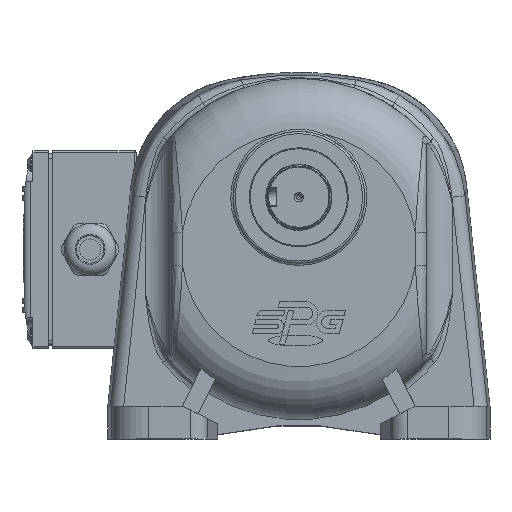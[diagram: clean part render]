
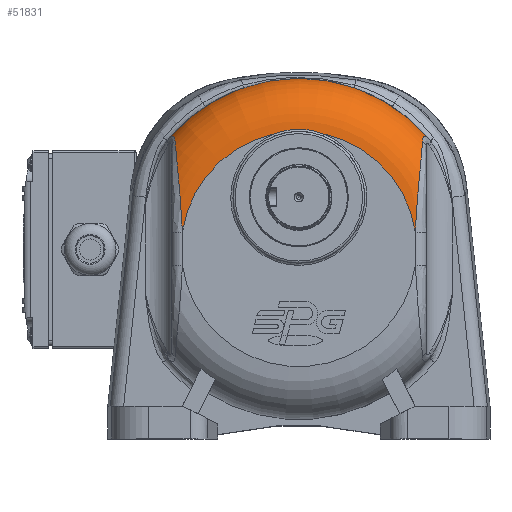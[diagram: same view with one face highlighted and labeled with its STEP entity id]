
A CAD part, top view. The second image highlights one B-rep face of the part: STEP entity #51831.
In plain terms, the highlighted toroidal (fillet/blend) face has major radius 53.545 mm and minor radius 24 mm.
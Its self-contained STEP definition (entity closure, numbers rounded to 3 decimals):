
#264=TOROIDAL_SURFACE('',#55422,53.545,24.);
#579=B_SPLINE_CURVE_WITH_KNOTS('',3,(#79896,#79897,#79898,#79899,#79900),
 .UNSPECIFIED.,.F.,.F.,(4,1,4),(-3.142,-0.449,3.142),
 .UNSPECIFIED.);
#593=B_SPLINE_CURVE_WITH_KNOTS('',3,(#80525,#80526,#80527,#80528,#80529,
#80530,#80531),.UNSPECIFIED.,.F.,.F.,(4,1,1,1,4),(-0.961,-0.686,
-0.412,-0.275,0.),.UNSPECIFIED.);
#595=B_SPLINE_CURVE_WITH_KNOTS('',3,(#80653,#80654,#80655,#80656,#80657,
#80658,#80659,#80660,#80661),.UNSPECIFIED.,.F.,.F.,(4,1,1,1,1,1,4),(-4.098,
-2.927,-2.342,-1.756,-1.171,
-0.585,0.),.UNSPECIFIED.);
#604=B_SPLINE_CURVE_WITH_KNOTS('',3,(#80916,#80917,#80918,#80919,#80920,
#80921,#80922,#80923,#80924),.UNSPECIFIED.,.F.,.F.,(4,1,1,1,1,1,4),(-9.723,
-9.138,-8.553,-7.967,-7.382,
-6.796,-5.626),.UNSPECIFIED.);
#606=B_SPLINE_CURVE_WITH_KNOTS('',3,(#81020,#81021,#81022,#81023,#81024,
#81025,#81026),.UNSPECIFIED.,.F.,.F.,(4,1,1,1,4),(-0.961,-0.686,
-0.412,-0.275,0.),.UNSPECIFIED.);
#5480=FACE_OUTER_BOUND('',#8737,.T.);
#8737=EDGE_LOOP('',(#34725,#34726,#34727,#34728,#34729,#34730,#34731,#34732));
#12085=CIRCLE('',#55313,53.545);
#12087=CIRCLE('',#55315,53.545);
#12155=CIRCLE('',#55421,77.539);
#21041=VERTEX_POINT('',#79684);
#21043=VERTEX_POINT('',#79687);
#21044=VERTEX_POINT('',#79689);
#21045=VERTEX_POINT('',#79691);
#21157=VERTEX_POINT('',#80522);
#21158=VERTEX_POINT('',#80524);
#21170=VERTEX_POINT('',#80914);
#21171=VERTEX_POINT('',#81018);
#26020=EDGE_CURVE('',#21043,#21041,#12085,.T.);
#26022=EDGE_CURVE('',#21045,#21044,#12087,.T.);
#26108=EDGE_CURVE('',#21043,#21044,#579,.T.);
#26157=EDGE_CURVE('',#21157,#21158,#593,.T.);
#26162=EDGE_CURVE('',#21045,#21157,#595,.T.);
#26179=EDGE_CURVE('',#21170,#21041,#604,.T.);
#26183=EDGE_CURVE('',#21171,#21170,#606,.T.);
#26227=EDGE_CURVE('',#21171,#21158,#12155,.T.);
#34725=ORIENTED_EDGE('',*,*,#26227,.T.);
#34726=ORIENTED_EDGE('',*,*,#26157,.F.);
#34727=ORIENTED_EDGE('',*,*,#26162,.F.);
#34728=ORIENTED_EDGE('',*,*,#26022,.T.);
#34729=ORIENTED_EDGE('',*,*,#26108,.F.);
#34730=ORIENTED_EDGE('',*,*,#26020,.T.);
#34731=ORIENTED_EDGE('',*,*,#26179,.F.);
#34732=ORIENTED_EDGE('',*,*,#26183,.F.);
#51831=ADVANCED_FACE('',(#5480),#264,.T.);
#55313=AXIS2_PLACEMENT_3D('',#79688,#61997,#61998);
#55315=AXIS2_PLACEMENT_3D('',#79692,#62001,#62002);
#55421=AXIS2_PLACEMENT_3D('',#81848,#62291,#62292);
#55422=AXIS2_PLACEMENT_3D('',#81880,#62293,#62294);
#61997=DIRECTION('center_axis',(0.,0.,-1.));
#61998=DIRECTION('ref_axis',(-1.,0.,0.));
#62001=DIRECTION('center_axis',(0.,0.,-1.));
#62002=DIRECTION('ref_axis',(-1.,0.,0.));
#62291=DIRECTION('center_axis',(0.,0.,1.));
#62292=DIRECTION('ref_axis',(-1.,0.,0.));
#62293=DIRECTION('center_axis',(0.,0.,-1.));
#62294=DIRECTION('ref_axis',(-1.,0.,0.));
#79684=CARTESIAN_POINT('',(57.019,6.3,36.));
#79687=CARTESIAN_POINT('',(15.475,50.983,36.));
#79688=CARTESIAN_POINT('Origin',(4.019,-1.322,36.));
#79689=CARTESIAN_POINT('',(-7.438,50.983,36.));
#79691=CARTESIAN_POINT('',(-48.981,6.3,36.));
#79692=CARTESIAN_POINT('Origin',(4.019,-1.322,36.));
#79896=CARTESIAN_POINT('Ctrl Pts',(15.475,50.983,36.));
#79897=CARTESIAN_POINT('Ctrl Pts',(12.358,52.2,36.));
#79898=CARTESIAN_POINT('Ctrl Pts',(4.62,53.877,35.965));
#79899=CARTESIAN_POINT('Ctrl Pts',(-3.282,52.605,36.));
#79900=CARTESIAN_POINT('Ctrl Pts',(-7.438,50.983,36.));
#80522=CARTESIAN_POINT('',(-52.302,47.722,23.368));
#80524=CARTESIAN_POINT('',(-55.107,48.842,12.552));
#80525=CARTESIAN_POINT('Ctrl Pts',(-52.302,47.722,23.368));
#80526=CARTESIAN_POINT('Ctrl Pts',(-52.36,48.389,22.474));
#80527=CARTESIAN_POINT('Ctrl Pts',(-52.561,49.556,20.476));
#80528=CARTESIAN_POINT('Ctrl Pts',(-53.177,50.123,17.62));
#80529=CARTESIAN_POINT('Ctrl Pts',(-54.05,49.875,14.883));
#80530=CARTESIAN_POINT('Ctrl Pts',(-54.676,49.319,13.422));
#80531=CARTESIAN_POINT('Ctrl Pts',(-55.107,48.842,12.552));
#80653=CARTESIAN_POINT('Ctrl Pts',(-48.981,6.3,36.));
#80654=CARTESIAN_POINT('Ctrl Pts',(-49.126,10.224,36.));
#80655=CARTESIAN_POINT('Ctrl Pts',(-49.502,16.18,35.978));
#80656=CARTESIAN_POINT('Ctrl Pts',(-50.194,24.436,35.208));
#80657=CARTESIAN_POINT('Ctrl Pts',(-50.759,30.665,34.021));
#80658=CARTESIAN_POINT('Ctrl Pts',(-51.338,36.93,31.903));
#80659=CARTESIAN_POINT('Ctrl Pts',(-51.877,42.857,28.572));
#80660=CARTESIAN_POINT('Ctrl Pts',(-52.18,46.301,25.275));
#80661=CARTESIAN_POINT('Ctrl Pts',(-52.302,47.722,23.368));
#80914=CARTESIAN_POINT('',(60.339,47.722,23.368));
#80916=CARTESIAN_POINT('Ctrl Pts',(60.339,47.722,23.368));
#80917=CARTESIAN_POINT('Ctrl Pts',(60.217,46.301,25.275));
#80918=CARTESIAN_POINT('Ctrl Pts',(59.914,42.857,28.572));
#80919=CARTESIAN_POINT('Ctrl Pts',(59.375,36.93,31.903));
#80920=CARTESIAN_POINT('Ctrl Pts',(58.796,30.665,34.021));
#80921=CARTESIAN_POINT('Ctrl Pts',(58.231,24.436,35.208));
#80922=CARTESIAN_POINT('Ctrl Pts',(57.54,16.18,35.978));
#80923=CARTESIAN_POINT('Ctrl Pts',(57.163,10.224,36.));
#80924=CARTESIAN_POINT('Ctrl Pts',(57.019,6.3,36.));
#81018=CARTESIAN_POINT('',(63.145,48.842,12.552));
#81020=CARTESIAN_POINT('Ctrl Pts',(63.145,48.842,12.552));
#81021=CARTESIAN_POINT('Ctrl Pts',(62.713,49.319,13.422));
#81022=CARTESIAN_POINT('Ctrl Pts',(61.869,50.075,15.383));
#81023=CARTESIAN_POINT('Ctrl Pts',(61.064,50.061,18.229));
#81024=CARTESIAN_POINT('Ctrl Pts',(60.549,49.251,20.985));
#81025=CARTESIAN_POINT('Ctrl Pts',(60.397,48.388,22.474));
#81026=CARTESIAN_POINT('Ctrl Pts',(60.339,47.722,23.368));
#81848=CARTESIAN_POINT('Origin',(4.019,-1.322,12.552));
#81880=CARTESIAN_POINT('Origin',(4.019,-1.322,12.));
